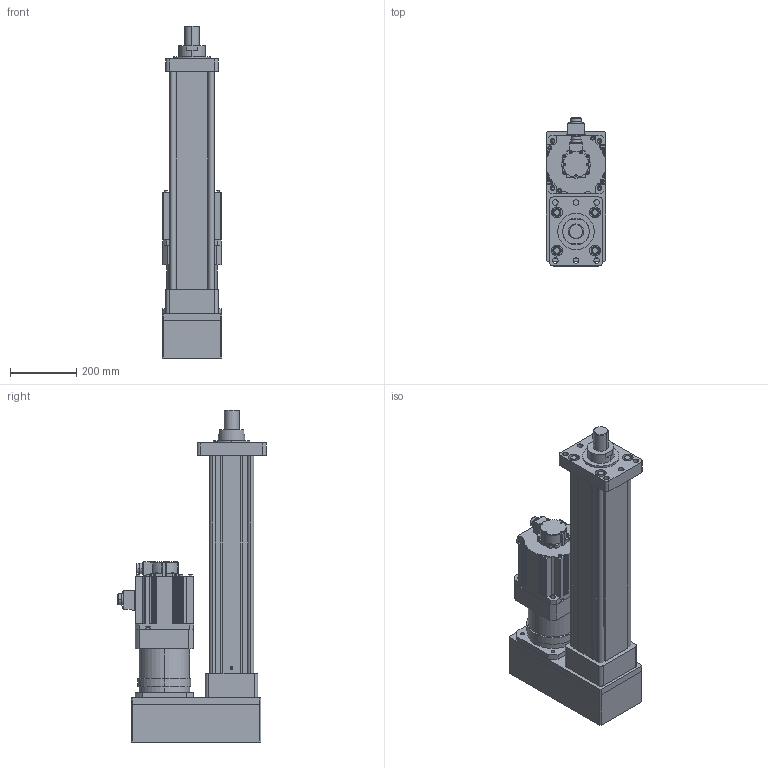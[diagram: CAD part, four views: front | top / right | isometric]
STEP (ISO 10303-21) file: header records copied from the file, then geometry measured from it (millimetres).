
FILE_DESCRIPTION (( 'STEP AP203' ), '1' );
FILE_NAME ('RKF130-P-FA-B3.STEP', '2025-01-23T10:59:25', ( '' ), ( '' ), 'SwSTEP 2.0', 'SolidWorks 2024', '' );
FILE_SCHEMA (( 'CONFIG_CONTROL_DESIGN' ));
Length unit declared in the file: millimetre
Products named in the file (13): 复件 松下3KW伺服电机带刹车MHMF302L1H6 2JL10_1^RKF130-P-FA-B3; 复件 134-前法兰-连接_1^RKF130-P-FA-B3; 复件 盖板_1^RKF130-P-FA-B3; 复件 134-后法兰_1^RKF130-P-FA-B3; 复件 PLF160-L1-35-114-200-M12_1^复件 PLF160-L1-35-114-200-M12_1_RKF130-P-FA-B3; RKF130-P-FA-B3; 复件 M16_1^RKF130-P-FA-B3; 复件 134-缸筒_1^RKF130-P-FA-B3; 复件 134-拉杆_1^RKF130-P-FA-B3; 复件 134-连接接头_1^RKF130-P-FA-B3; 复件 PLF160-L1-35-114-200-M12_1^RKF130-P-FA-B3; 复件 底板_1^RKF130-P-FA-B3; 复件 _MHMF302L1H6 _body_1^复件 松下3KW伺服电机带刹车MHMF302L1H6 2JL10_1_RKF130-P-FA-B3
Assembly tree (18 placements, depth 3):
  RKF130-P-FA-B3
    复件 134-缸筒_1^RKF130-P-FA-B3
    复件 134-后法兰_1^RKF130-P-FA-B3
    复件 134-拉杆_1^RKF130-P-FA-B3  x4
    复件 134-连接接头_1^RKF130-P-FA-B3
    复件 底板_1^RKF130-P-FA-B3
    复件 盖板_1^RKF130-P-FA-B3
    复件 M16_1^RKF130-P-FA-B3  x4
    复件 134-前法兰-连接_1^RKF130-P-FA-B3
    复件 PLF160-L1-35-114-200-M12_1^RKF130-P-FA-B3
      复件 PLF160-L1-35-114-200-M12_1^复件 PLF160-L1-35-114-200-M12_1_RKF130-P-FA-B3
    复件 松下3KW伺服电机带刹车MHMF302L1H6 2JL10_1^RKF130-P-FA-B3
      复件 _MHMF302L1H6 _body_1^复件 松下3KW伺服电机带刹车MHMF302L1H6 2JL10_1_RKF130-P-FA-B3
Bounding box: 178 x 447 x 1001 mm (x, y, z)
Volume: 25396539.3 mm3; surface area: 2097225.4 mm2
Topology: 16 solids, 16 shells, 1239 faces, 3208 edges, 2093 vertices
Faces by surface type: plane 550, cylinder 525, cone 106, torus 45, bspline 9, sphere 4
Entity records: 40240 total; most frequent: CARTESIAN_POINT 8920, DIRECTION 6466, ORIENTED_EDGE 6088, EDGE_CURVE 3044, AXIS2_PLACEMENT_3D 2351, VERTEX_POINT 1995, LINE 1764, VECTOR 1764
